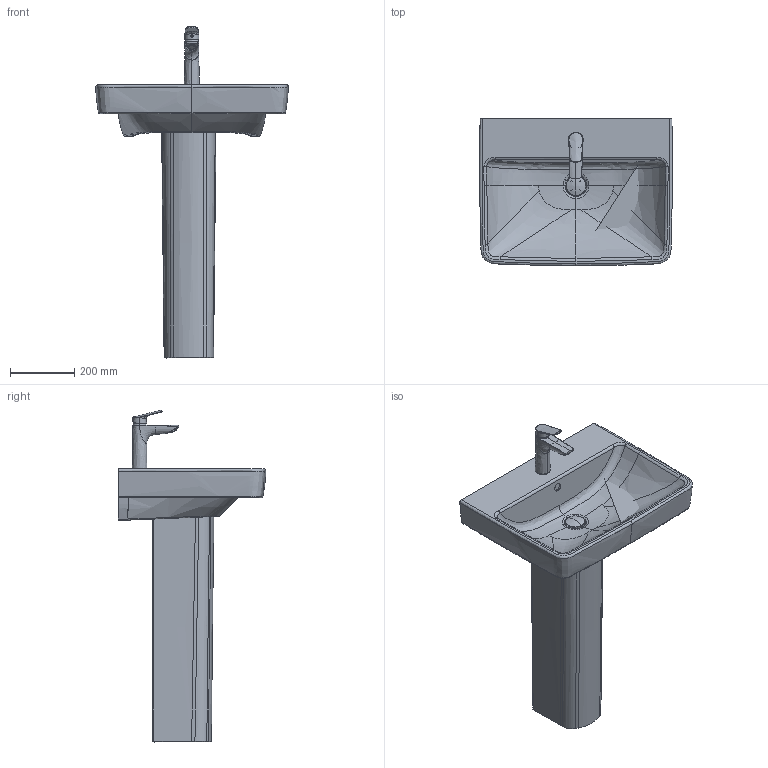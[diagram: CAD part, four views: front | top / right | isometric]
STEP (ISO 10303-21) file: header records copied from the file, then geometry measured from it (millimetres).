
FILE_DESCRIPTION(/* description */ (''),/* implementation_level */ '2;1');
FILE_NAME(/* name */ '237560_085844',/* time_stamp */ '2021-09-20T14:39:42+02:00',/* author */ (''),/* organization */ (''),/* preprocessor_version */ 'ST-DEVELOPER v15',/* originating_system */ '',/* authorisation */ '');
FILE_SCHEMA (('AUTOMOTIVE_DESIGN'));
Length unit declared in the file: millimetre
Products named in the file (1): Document
Bounding box: 599.91 x 460.1 x 1032.97 mm (x, y, z)
Volume: 20967543.3 mm3; surface area: 1797538.4 mm2
Topology: 7 solids, 10 shells, 593 faces, 1416 edges, 843 vertices
Faces by surface type: bspline 505, plane 88
Entity records: 108846 total; most frequent: CARTESIAN_POINT 100256, ORIENTED_EDGE 2798, EDGE_CURVE 1408, B_SPLINE_CURVE_WITH_KNOTS 1094, VERTEX_POINT 843, EDGE_LOOP 623, ADVANCED_FACE 592, FACE_OUTER_BOUND 592
